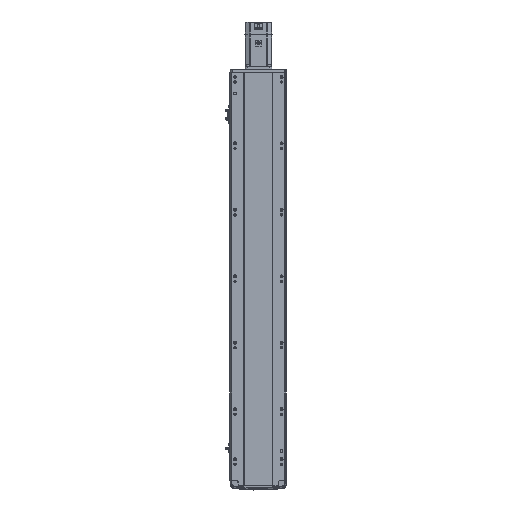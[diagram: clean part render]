
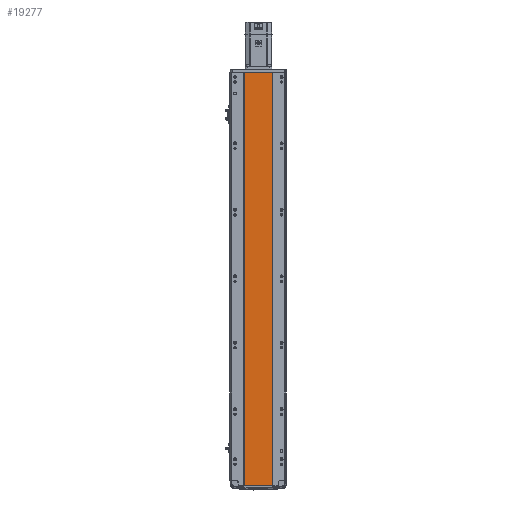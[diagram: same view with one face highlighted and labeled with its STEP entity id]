
A CAD part, front view. The second image highlights one B-rep face of the part: STEP entity #19277.
In plain terms, the highlighted planar face has unit normal (0, -1, 0).
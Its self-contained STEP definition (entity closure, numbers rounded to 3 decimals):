
#2641 = DIRECTION ( 'NONE',  ( -1., 0., 0. ) ) ;
#3966 = VERTEX_POINT ( 'NONE', #50161 ) ;
#6340 = VERTEX_POINT ( 'NONE', #14658 ) ;
#6888 = DIRECTION ( 'NONE',  ( 0., 0., -1. ) ) ;
#9072 = LINE ( 'NONE', #53603, #46735 ) ;
#11876 = FACE_OUTER_BOUND ( 'NONE', #51480, .T. ) ;
#14658 = CARTESIAN_POINT ( 'NONE',  ( -41.791, 1., 1243.5 ) ) ;
#16368 = DIRECTION ( 'NONE',  ( 1., 0., 0. ) ) ;
#18263 = CARTESIAN_POINT ( 'NONE',  ( 41.793, 0.998, 1243.5 ) ) ;
#18571 = VERTEX_POINT ( 'NONE', #18263 ) ;
#19277 = ADVANCED_FACE ( 'NONE', ( #11876 ), #32267, .F. ) ;
#20475 = DIRECTION ( 'NONE',  ( 0., 0., -1. ) ) ;
#21776 = AXIS2_PLACEMENT_3D ( 'NONE', #44422, #23335, #2641 ) ;
#22057 = ORIENTED_EDGE ( 'NONE', *, *, #22875, .T. ) ;
#22875 = EDGE_CURVE ( 'NONE', #6340, #3966, #9072, .T. ) ;
#23335 = DIRECTION ( 'NONE',  ( 0., 1., 0. ) ) ;
#23397 = LINE ( 'NONE', #27579, #48772 ) ;
#24439 = VECTOR ( 'NONE', #44378, 1000. ) ;
#24546 = CARTESIAN_POINT ( 'NONE',  ( 0., 0.999, 0. ) ) ;
#27579 = CARTESIAN_POINT ( 'NONE',  ( 41.793, 0.998, 1243.5 ) ) ;
#29094 = EDGE_CURVE ( 'NONE', #18571, #48080, #23397, .T. ) ;
#32267 = PLANE ( 'NONE',  #21776 ) ;
#36136 = ORIENTED_EDGE ( 'NONE', *, *, #39915, .T. ) ;
#37651 = VECTOR ( 'NONE', #16368, 1000. ) ;
#37664 = CARTESIAN_POINT ( 'NONE',  ( 41.793, 0.998, 0. ) ) ;
#39915 = EDGE_CURVE ( 'NONE', #3966, #48080, #48090, .T. ) ;
#44378 = DIRECTION ( 'NONE',  ( 1., 0., 0. ) ) ;
#44422 = CARTESIAN_POINT ( 'NONE',  ( 0., 0.999, 1243.5 ) ) ;
#46735 = VECTOR ( 'NONE', #20475, 1000. ) ;
#48080 = VERTEX_POINT ( 'NONE', #37664 ) ;
#48090 = LINE ( 'NONE', #24546, #37651 ) ;
#48772 = VECTOR ( 'NONE', #6888, 1000. ) ;
#49168 = ORIENTED_EDGE ( 'NONE', *, *, #50262, .F. ) ;
#50161 = CARTESIAN_POINT ( 'NONE',  ( -41.791, 1., 0. ) ) ;
#50262 = EDGE_CURVE ( 'NONE', #6340, #18571, #51727, .T. ) ;
#50983 = ORIENTED_EDGE ( 'NONE', *, *, #29094, .F. ) ;
#51480 = EDGE_LOOP ( 'NONE', ( #36136, #50983, #49168, #22057 ) ) ;
#51727 = LINE ( 'NONE', #51862, #24439 ) ;
#51862 = CARTESIAN_POINT ( 'NONE',  ( 0., 0.999, 1243.5 ) ) ;
#53603 = CARTESIAN_POINT ( 'NONE',  ( -41.791, 1., 1243.5 ) ) ;
